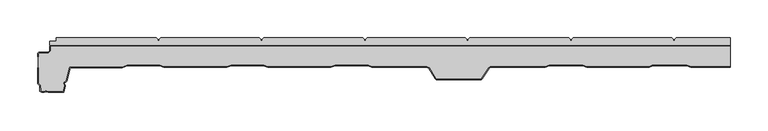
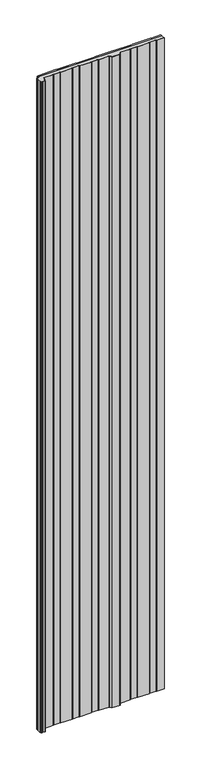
"""IFC4 building model written with IfcOpenShell, lengths in millimetres: plate geometry, Paneles-Sándwich-Madera_PAPUR-AC_Curtain-Panel : PAPUR AC 30/10."""

from ifc_helpers import new_model, si_unit, origin, origin_with_axes, place, context, project, spatial, polyline, outline, extrude, source, transform, mapped, element, save


def plate_cba14e92(model_context):
    return source(origin(), model_context, "Body", "SweptSolid", [
        extrude(outline(polyline([(-304.8923076, 8.0070037), (-302.9037044, 10.0073737), (-172.8159298, 10.0073737), (-170.8198896, 8.0070037), (-170.8198896, 6.0196231), (-168.8151898, 6.0196231), (-168.8151898, 8.0070037), (-166.8234794, 10.0073737), (-36.0114048, 10.0073737), (-34.028354, 8.0070037), (-34.028354, 6.0196231), (-32.0236542, 6.0196231), (-32.0236542, 8.0070037), (-30.027614, 10.0073737), (99.3209865, 10.0073737), (101.3083671, 8.0070037), (101.3083671, 6.0196231), (103.3044073, 6.0196231), (103.3044073, 8.0070037), (105.3047773, 10.0073737), (236.7230247, 10.0073737), (238.7147351, 8.0070037), (238.7147351, 6.0196231), (240.7107753, 6.0196231), (240.7107753, 8.0070037), (242.7111453, 10.0073737), (372.9386962, 10.0073737), (374.9390662, 8.0070037), (374.9390662, 6.0196231), (376.9351064, 6.0196231), (376.9351064, 8.0070037), (378.9311466, 10.0073737), (450.0, 10.0073737), (450.0, 0.0), (-449.601171, 0.0), (-449.601171, 5.5984381), (-441.266524, 5.5984381), (-441.266524, 10.0073737), (-308.8887178, 10.0073737), (-306.8926776, 8.0070037), (-306.8926776, 6.0196231), (-304.8923076, 6.0196231), (-304.8923076, 8.0070037)])), origin_with_axes(), (0.0, 0.0, 1.0), 5000.0),
        extrude(outline(polyline([(-465.6618356, -10.4348305), (-464.1420739, -9.1055803), (-452.1008857, -8.9930054), (-449.9316533, -7.001295), (-449.9922705, -1.1690474), (-448.9531173, 0.0), (450.0, 0.0), (450.0, -0.8), (-448.5938644, -0.8), (-449.1891031, -1.4696435), (-449.1279914, -7.3494661), (-451.7861577, -9.7900979), (-463.8383716, -9.9027759), (-464.8585217, -10.795044), (-464.8185043, -15.1889566), (-465.6185375, -15.1889566), (-465.6618356, -10.4348305)])), origin_with_axes(), (0.0, 0.0, 1.0), 5000.0),
        extrude(outline(polyline([(260.2961713, -29.080732), (255.0700964, -26.8595419), (210.914743, -26.8595419), (205.4418692, -29.080732), (132.9522706, -29.080732), (131.4498282, -30.0159699), (122.1450768, -44.1874223), (121.0669553, -45.2871929), (61.5970809, -45.7721311), (59.7092859, -44.4602001), (51.1406014, -30.2974073), (48.4301433, -29.080732), (-24.2066687, -29.080732), (-28.6057508, -26.8595419), (-72.432039, -26.8595419), (-78.2426376, -29.080732), (-161.7689096, -29.080732), (-167.3283795, -26.8595419), (-209.6738743, -26.8595419), (-215.8568362, -29.080732), (-299.3138314, -29.080732), (-304.2931073, -26.8595419), (-347.2231259, -26.8595419), (-353.6788654, -29.5570106), (-422.9773976, -29.6955644), (-427.4977143, -47.4131272), (-428.6234636, -48.5994938), (-430.0999272, -49.3355607), (-430.4116732, -50.262139), (-429.4850948, -52.4227118), (-429.4850948, -53.6653659), (-431.6372836, -62.0045707), (-452.0433799, -62.0045707), (-454.8231149, -61.0779924), (-457.2997634, -62.0045707), (-460.7029903, -62.0045707), (-462.8635631, -60.4025428), (-462.9285102, -53.2756835), (-465.6476279, -50.6041937), (-465.6, -29.57), (-464.7999979, -29.57), (-464.8468678, -50.2694216), (-462.1315619, -52.9371664), (-462.0672248, -59.9970874), (-460.438754, -61.2045707), (-457.4445144, -61.2045707), (-454.8384953, -60.2295916), (-451.9135578, -61.2045707), (-432.2570317, -61.2045707), (-430.2850948, -53.5637976), (-430.2850948, -52.5870188), (-431.2673442, -50.2966335), (-430.7527365, -48.767105), (-429.1066634, -47.946482), (-428.2213945, -47.0135448), (-423.5992353, -28.896806), (-353.8400488, -28.7573313), (-347.3835418, -26.0595419), (-304.1227627, -26.0595419), (-299.1434867, -28.280732), (-215.9961744, -28.280732), (-209.8132126, -26.0595419), (-167.1744807, -26.0595419), (-161.6150108, -28.280732), (-78.390332, -28.280732), (-72.5797335, -26.0595419), (-28.4152363, -26.0595419), (-24.0161542, -28.280732), (48.6014618, -28.280732), (51.6958915, -29.6697651), (60.3056326, -43.9004185), (61.8448216, -44.9700843), (120.728235, -44.4899283), (121.5191698, -43.6831114), (130.8776723, -29.4297941), (132.7236193, -28.280732), (205.2857129, -28.280732), (210.7585866, -26.0595419), (255.2330509, -26.0595419), (260.4591258, -28.280732), (342.801635, -28.280732), (347.2274638, -26.0595419), (392.6117194, -26.0595419), (398.2231469, -28.280732), (450.0, -28.280732), (450.0, -29.080732), (398.0705727, -29.080732), (392.4591451, -26.8595419), (347.4169495, -26.8595419), (342.9911208, -29.080732), (260.2961713, -29.080732)])), origin_with_axes(), (0.0, 0.0, 1.0), 5000.0),
        extrude(outline(polyline([(398.2211683, -28.2761613), (392.6097408, -26.0549712), (347.2254852, -26.0549712), (342.7996564, -28.2761613), (260.4571472, -28.2761613), (255.2310723, -26.0549712), (210.756608, -26.0549712), (205.2837343, -28.2761613), (132.7216407, -28.2761613), (130.8756937, -29.4252234), (121.5171912, -43.6785406), (120.7262564, -44.4853576), (61.842843, -44.9655136), (60.303654, -43.8958478), (51.6939129, -29.6651944), (48.5994832, -28.2761613), (-24.0181328, -28.2761613), (-28.4172149, -26.0549712), (-72.5817121, -26.0549712), (-78.3923106, -28.2761613), (-161.6169894, -28.2761613), (-167.1764593, -26.0549712), (-209.8151912, -26.0549712), (-215.998153, -28.2761613), (-299.1454653, -28.2761613), (-304.1247413, -26.0549712), (-347.3855204, -26.0549712), (-353.8420274, -28.7527605), (-423.6012139, -28.8922353), (-428.2233731, -47.0089741), (-429.108642, -47.9419113), (-430.7547151, -48.7625342), (-431.2693228, -50.2920628), (-430.2870734, -52.5824481), (-430.2870734, -53.5592269), (-432.2590104, -61.2), (-451.9155364, -61.2), (-454.8404739, -60.2250208), (-457.446493, -61.2), (-460.4407326, -61.2), (-462.0692034, -59.9925166), (-462.1335405, -52.9325956), (-464.8488464, -50.2648508), (-464.8019766, -30.0), (-464.8432618, -10.795044), (-463.8231116, -9.9027759), (-451.7708977, -9.7900979), (-449.1127314, -7.3494661), (-449.1738431, -1.4696435), (-448.5786045, -0.8), (450.0, -0.8), (450.0, -28.2761613), (398.2211683, -28.2761613)])), origin_with_axes(), (0.0, 0.0, 1.0), 5000.0),
    ])


if __name__ == "__main__":
    model = new_model("IFC4")
    model_context = context("Model", 3, world=origin())
    ifc_project = project(units=[si_unit("LENGTHUNIT", "METRE", prefix="MILLI")], contexts=[model_context])
    site = spatial("IfcSite", under=ifc_project)
    building = spatial("IfcBuilding", under=site)
    placement = place(None, origin())
    plate_shape = plate_cba14e92(model_context)
    element("IfcPlate", 1, ObjectType="Paneles-Sándwich-Madera_PAPUR-AC_Curtain-Panel : PAPUR AC 30/10", at=placement, inside=building, context=model_context, shape_type="MappedRepresentation", body=[
        mapped(plate_shape, transform((0.0, 0.0, 0.0), x_axis=(1.0, 0.0, 0.0), y_axis=(0.0, 1.0, 0.0), z_axis=(0.0, 0.0, 1.0))),
    ])
    save(model, "model.ifc")
